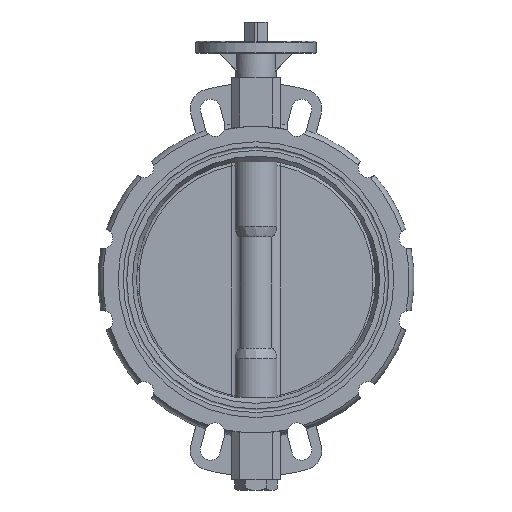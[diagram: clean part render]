
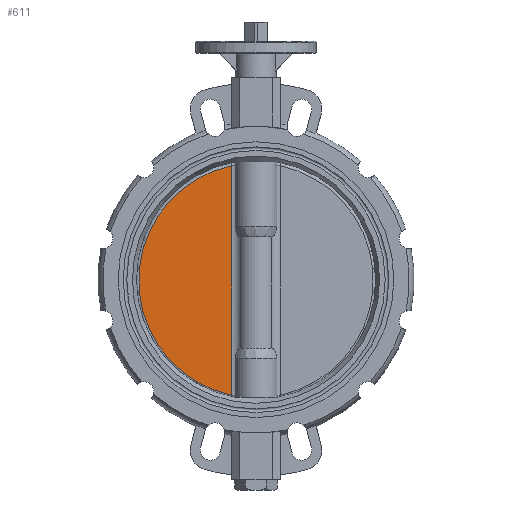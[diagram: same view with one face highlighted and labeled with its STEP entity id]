
A CAD part, front view. The second image highlights one B-rep face of the part: STEP entity #611.
In plain terms, the highlighted planar face has unit normal (0, -1, 0).
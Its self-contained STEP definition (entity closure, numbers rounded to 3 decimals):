
#611 = ADVANCED_FACE( '', ( #1301 ), #1302, .F. );
#1301 = FACE_OUTER_BOUND( '', #6592, .T. );
#1302 = PLANE( '', #6593 );
#6592 = EDGE_LOOP( '', ( #9062, #9063, #9064, #9065, #9066, #9067 ) );
#6593 = AXIS2_PLACEMENT_3D( '', #9068, #9069, #9070 );
#9062 = ORIENTED_EDGE( '', *, *, #9787, .T. );
#9063 = ORIENTED_EDGE( '', *, *, #9651, .T. );
#9064 = ORIENTED_EDGE( '', *, *, #9674, .T. );
#9065 = ORIENTED_EDGE( '', *, *, #10233, .F. );
#9066 = ORIENTED_EDGE( '', *, *, #10179, .T. );
#9067 = ORIENTED_EDGE( '', *, *, #9895, .T. );
#9068 = CARTESIAN_POINT( '', ( -288.989, 495.914, -137.25 ) );
#9069 = DIRECTION( '', ( 0., 1., 0. ) );
#9070 = DIRECTION( '', ( 1., 0., 0. ) );
#9651 = EDGE_CURVE( '', #10579, #10583, #10585, .T. );
#9674 = EDGE_CURVE( '', #10583, #10501, #10622, .T. );
#9787 = EDGE_CURVE( '', #10815, #10579, #10819, .T. );
#9895 = EDGE_CURVE( '', #10999, #10815, #11003, .T. );
#10179 = EDGE_CURVE( '', #11388, #10999, #11429, .T. );
#10233 = EDGE_CURVE( '', #11388, #10501, #11502, .T. );
#10501 = VERTEX_POINT( '', #11936 );
#10579 = VERTEX_POINT( '', #12103 );
#10583 = VERTEX_POINT( '', #12143 );
#10585 = B_SPLINE_CURVE_WITH_KNOTS( '', 3, ( #12169, #12170, #12171, #12172, #12173, #12174, #12175, #12176, #12177, #12178, #12179, #12180, #12181, #12182, #12183, #12184, #12185, #12186, #12187, #12188, #12189, #12190, #12191, #12192, #12193, #12194, #12195, #12196, #12197, #12198, #12199, #12200, #12201, #12202, #12203, #12204 ), .UNSPECIFIED., .F., .F., ( 4, 2, 2, 2, 2, 2, 2, 2, 2, 2, 2, 2, 2, 2, 2, 2, 2, 4 ), ( 0., 0., 0., 0., 0., 0., 0., 0., 0., 0., 0., 0., 0., 0., 0., 0., 0., 0. ), .UNSPECIFIED. );
#10622 = CIRCLE( '', #12338, 146.1 );
#10815 = VERTEX_POINT( '', #12740 );
#10819 = LINE( '', #12782, #12783 );
#10999 = VERTEX_POINT( '', #13312 );
#11003 = B_SPLINE_CURVE_WITH_KNOTS( '', 3, ( #13346, #13347, #13348, #13349, #13350, #13351, #13352, #13353, #13354, #13355, #13356, #13357, #13358, #13359, #13360, #13361, #13362, #13363, #13364, #13365, #13366, #13367, #13368, #13369, #13370, #13371, #13372, #13373, #13374, #13375, #13376, #13377, #13378, #13379, #13380 ), .UNSPECIFIED., .F., .F., ( 4, 2, 2, 2, 2, 1, 2, 2, 2, 2, 2, 2, 2, 2, 2, 2, 2, 4 ), ( 0., 0., 0., 0., 0., 0., 0., 0., 0., 0., 0., 0., 0., 0., 0., 0., 0., 0. ), .UNSPECIFIED. );
#11388 = VERTEX_POINT( '', #14288 );
#11429 = CIRCLE( '', #14476, 146.1 );
#11502 = LINE( '', #14822, #14823 );
#11936 = CARTESIAN_POINT( '', ( -288.989, 495.914, -427.959 ) );
#12103 = CARTESIAN_POINT( '', ( -403.943, 495.914, -300.718 ) );
#12143 = CARTESIAN_POINT( '', ( -404.057, 495.914, -301.175 ) );
#12169 = CARTESIAN_POINT( '', ( -403.943, 495.914, -300.718 ) );
#12170 = CARTESIAN_POINT( '', ( -403.943, 495.914, -300.759 ) );
#12171 = CARTESIAN_POINT( '', ( -403.944, 495.914, -300.8 ) );
#12172 = CARTESIAN_POINT( '', ( -403.947, 495.914, -300.862 ) );
#12173 = CARTESIAN_POINT( '', ( -403.949, 495.914, -300.882 ) );
#12174 = CARTESIAN_POINT( '', ( -403.953, 495.914, -300.923 ) );
#12175 = CARTESIAN_POINT( '', ( -403.955, 495.914, -300.943 ) );
#12176 = CARTESIAN_POINT( '', ( -403.959, 495.914, -300.974 ) );
#12177 = CARTESIAN_POINT( '', ( -403.961, 495.914, -300.984 ) );
#12178 = CARTESIAN_POINT( '', ( -403.964, 495.914, -301.004 ) );
#12179 = CARTESIAN_POINT( '', ( -403.966, 495.914, -301.014 ) );
#12180 = CARTESIAN_POINT( '', ( -403.971, 495.914, -301.034 ) );
#12181 = CARTESIAN_POINT( '', ( -403.973, 495.914, -301.044 ) );
#12182 = CARTESIAN_POINT( '', ( -403.978, 495.914, -301.064 ) );
#12183 = CARTESIAN_POINT( '', ( -403.981, 495.914, -301.074 ) );
#12184 = CARTESIAN_POINT( '', ( -403.988, 495.914, -301.093 ) );
#12185 = CARTESIAN_POINT( '', ( -403.991, 495.914, -301.103 ) );
#12186 = CARTESIAN_POINT( '', ( -403.998, 495.914, -301.117 ) );
#12187 = CARTESIAN_POINT( '', ( -404., 495.914, -301.121 ) );
#12188 = CARTESIAN_POINT( '', ( -404.005, 495.914, -301.13 ) );
#12189 = CARTESIAN_POINT( '', ( -404.007, 495.914, -301.135 ) );
#12190 = CARTESIAN_POINT( '', ( -404.011, 495.914, -301.141 ) );
#12191 = CARTESIAN_POINT( '', ( -404.013, 495.914, -301.143 ) );
#12192 = CARTESIAN_POINT( '', ( -404.016, 495.914, -301.147 ) );
#12193 = CARTESIAN_POINT( '', ( -404.017, 495.914, -301.15 ) );
#12194 = CARTESIAN_POINT( '', ( -404.022, 495.914, -301.155 ) );
#12195 = CARTESIAN_POINT( '', ( -404.026, 495.914, -301.159 ) );
#12196 = CARTESIAN_POINT( '', ( -404.032, 495.914, -301.164 ) );
#12197 = CARTESIAN_POINT( '', ( -404.034, 495.914, -301.166 ) );
#12198 = CARTESIAN_POINT( '', ( -404.038, 495.914, -301.169 ) );
#12199 = CARTESIAN_POINT( '', ( -404.04, 495.914, -301.17 ) );
#12200 = CARTESIAN_POINT( '', ( -404.045, 495.914, -301.172 ) );
#12201 = CARTESIAN_POINT( '', ( -404.047, 495.914, -301.173 ) );
#12202 = CARTESIAN_POINT( '', ( -404.052, 495.914, -301.174 ) );
#12203 = CARTESIAN_POINT( '', ( -404.055, 495.914, -301.175 ) );
#12204 = CARTESIAN_POINT( '', ( -404.057, 495.914, -301.175 ) );
#12338 = AXIS2_PLACEMENT_3D( '', #15803, #15804, #15805 );
#12740 = CARTESIAN_POINT( '', ( -403.943, 495.914, -269.282 ) );
#12782 = CARTESIAN_POINT( '', ( -403.943, 495.914, -137.25 ) );
#12783 = VECTOR( '', #15967, 1000. );
#13312 = CARTESIAN_POINT( '', ( -404.057, 495.914, -268.825 ) );
#13346 = CARTESIAN_POINT( '', ( -404.057, 495.914, -268.825 ) );
#13347 = CARTESIAN_POINT( '', ( -404.052, 495.914, -268.825 ) );
#13348 = CARTESIAN_POINT( '', ( -404.047, 495.914, -268.827 ) );
#13349 = CARTESIAN_POINT( '', ( -404.04, 495.914, -268.83 ) );
#13350 = CARTESIAN_POINT( '', ( -404.038, 495.914, -268.832 ) );
#13351 = CARTESIAN_POINT( '', ( -404.034, 495.914, -268.834 ) );
#13352 = CARTESIAN_POINT( '', ( -404.032, 495.914, -268.836 ) );
#13353 = CARTESIAN_POINT( '', ( -404.028, 495.914, -268.839 ) );
#13354 = CARTESIAN_POINT( '', ( -404.026, 495.914, -268.841 ) );
#13355 = CARTESIAN_POINT( '', ( -404.022, 495.914, -268.845 ) );
#13356 = CARTESIAN_POINT( '', ( -404.017, 495.914, -268.851 ) );
#13357 = CARTESIAN_POINT( '', ( -404.013, 495.914, -268.857 ) );
#13358 = CARTESIAN_POINT( '', ( -404.008, 495.914, -268.864 ) );
#13359 = CARTESIAN_POINT( '', ( -404.007, 495.914, -268.866 ) );
#13360 = CARTESIAN_POINT( '', ( -404.004, 495.914, -268.87 ) );
#13361 = CARTESIAN_POINT( '', ( -404.003, 495.914, -268.873 ) );
#13362 = CARTESIAN_POINT( '', ( -404., 495.914, -268.879 ) );
#13363 = CARTESIAN_POINT( '', ( -403.997, 495.914, -268.884 ) );
#13364 = CARTESIAN_POINT( '', ( -403.991, 495.914, -268.898 ) );
#13365 = CARTESIAN_POINT( '', ( -403.988, 495.914, -268.908 ) );
#13366 = CARTESIAN_POINT( '', ( -403.981, 495.914, -268.927 ) );
#13367 = CARTESIAN_POINT( '', ( -403.978, 495.914, -268.937 ) );
#13368 = CARTESIAN_POINT( '', ( -403.973, 495.914, -268.957 ) );
#13369 = CARTESIAN_POINT( '', ( -403.971, 495.914, -268.967 ) );
#13370 = CARTESIAN_POINT( '', ( -403.966, 495.914, -268.987 ) );
#13371 = CARTESIAN_POINT( '', ( -403.964, 495.914, -268.997 ) );
#13372 = CARTESIAN_POINT( '', ( -403.961, 495.914, -269.017 ) );
#13373 = CARTESIAN_POINT( '', ( -403.959, 495.914, -269.027 ) );
#13374 = CARTESIAN_POINT( '', ( -403.955, 495.914, -269.057 ) );
#13375 = CARTESIAN_POINT( '', ( -403.953, 495.914, -269.078 ) );
#13376 = CARTESIAN_POINT( '', ( -403.949, 495.914, -269.118 ) );
#13377 = CARTESIAN_POINT( '', ( -403.947, 495.914, -269.139 ) );
#13378 = CARTESIAN_POINT( '', ( -403.944, 495.914, -269.2 ) );
#13379 = CARTESIAN_POINT( '', ( -403.943, 495.914, -269.241 ) );
#13380 = CARTESIAN_POINT( '', ( -403.943, 495.914, -269.282 ) );
#14288 = CARTESIAN_POINT( '', ( -288.989, 495.914, -142.041 ) );
#14476 = AXIS2_PLACEMENT_3D( '', #16470, #16471, #16472 );
#14822 = CARTESIAN_POINT( '', ( -288.989, 495.914, -137.25 ) );
#14823 = VECTOR( '', #16506, 1000. );
#15803 = CARTESIAN_POINT( '', ( -258.856, 495.914, -285. ) );
#15804 = DIRECTION( '', ( 0., -1., 0. ) );
#15805 = DIRECTION( '', ( 0., 0., 1. ) );
#15967 = DIRECTION( '', ( 0., 0., -1. ) );
#16470 = CARTESIAN_POINT( '', ( -258.856, 495.914, -285. ) );
#16471 = DIRECTION( '', ( 0., -1., 0. ) );
#16472 = DIRECTION( '', ( 0., 0., 1. ) );
#16506 = DIRECTION( '', ( 0., 0., -1. ) );
